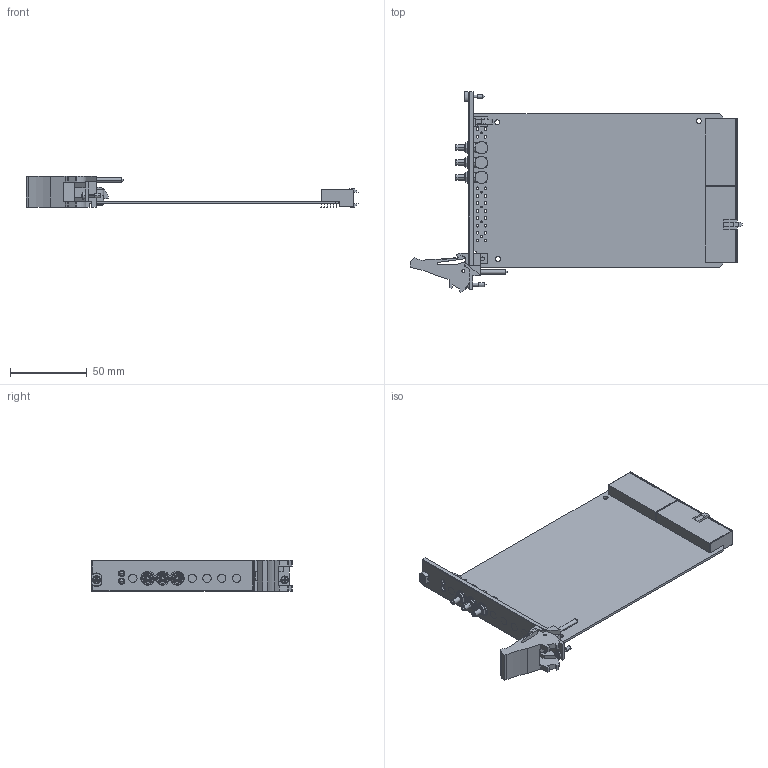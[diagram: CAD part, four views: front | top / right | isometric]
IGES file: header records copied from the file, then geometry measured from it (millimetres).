
Start section:  PTC IGES file: cu_cca_pxi_6651.igs
Global section: file name: cu_cca_pxi_6651.igs; native system: Pro/ENGINEER by Parametric Technology Corporation; preprocessor: 2006080; author: jpfaff; organization: Unknown; date: 090604.134117; units: inch
Bounding box: 216.08 x 130.5 x 20.19 mm (x, y, z)
Surface area: 51972.3 mm2 (no closed solid volume)
Topology: 0 solids, 0 shells, 860 faces, 4474 edges, 4466 vertices
Faces by surface type: bspline 520, revolution 340
